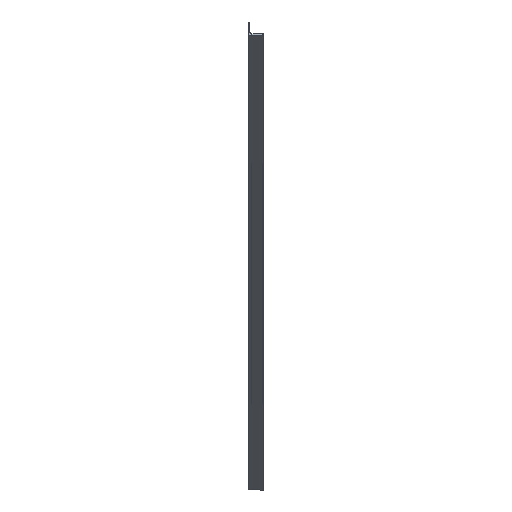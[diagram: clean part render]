
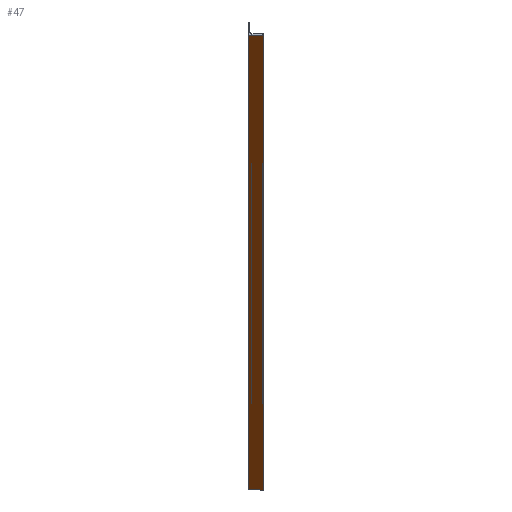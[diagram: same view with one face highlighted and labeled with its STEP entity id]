
A CAD part, top view. The second image highlights one B-rep face of the part: STEP entity #47.
In plain terms, the highlighted planar face has unit normal (0, -0.846, 0.533).
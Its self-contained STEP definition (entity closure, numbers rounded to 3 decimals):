
#1 = LINE ( 'NONE', #183, #19 ) ;
#6 = LINE ( 'NONE', #525, #703 ) ;
#19 = VECTOR ( 'NONE', #224, 1000. ) ;
#25 = DIRECTION ( 'NONE',  ( -1., 0., 0. ) ) ;
#47 = ADVANCED_FACE ( 'NONE', ( #403 ), #296, .F. ) ;
#50 = EDGE_CURVE ( 'NONE', #645, #722, #6, .T. ) ;
#68 = EDGE_CURVE ( 'NONE', #680, #250, #454, .T. ) ;
#93 = ORIENTED_EDGE ( 'NONE', *, *, #230, .T. ) ;
#132 = CARTESIAN_POINT ( 'NONE',  ( 5., 3572.842, 4931.08 ) ) ;
#183 = CARTESIAN_POINT ( 'NONE',  ( 5., 2101.535, 2597.884 ) ) ;
#213 = EDGE_LOOP ( 'NONE', ( #93, #396, #465, #628 ) ) ;
#224 = DIRECTION ( 'NONE',  ( -1., 0., 0. ) ) ;
#230 = EDGE_CURVE ( 'NONE', #250, #722, #479, .T. ) ;
#233 = DIRECTION ( 'NONE',  ( 0., 0.846, -0.533 ) ) ;
#250 = VERTEX_POINT ( 'NONE', #318 ) ;
#296 = PLANE ( 'NONE',  #691 ) ;
#318 = CARTESIAN_POINT ( 'NONE',  ( 55., 3572.842, 4931.08 ) ) ;
#319 = VECTOR ( 'NONE', #461, 1000. ) ;
#347 = DIRECTION ( 'NONE',  ( 0., 0.533, 0.846 ) ) ;
#396 = ORIENTED_EDGE ( 'NONE', *, *, #50, .F. ) ;
#399 = VECTOR ( 'NONE', #25, 1000. ) ;
#403 = FACE_OUTER_BOUND ( 'NONE', #213, .T. ) ;
#454 = LINE ( 'NONE', #633, #319 ) ;
#461 = DIRECTION ( 'NONE',  ( 0., 0.533, 0.846 ) ) ;
#465 = ORIENTED_EDGE ( 'NONE', *, *, #654, .F. ) ;
#479 = LINE ( 'NONE', #710, #399 ) ;
#525 = CARTESIAN_POINT ( 'NONE',  ( 5., 2101.535, 2597.884 ) ) ;
#576 = DIRECTION ( 'NONE',  ( 0., 0.533, 0.846 ) ) ;
#628 = ORIENTED_EDGE ( 'NONE', *, *, #68, .T. ) ;
#630 = CARTESIAN_POINT ( 'NONE',  ( 5., 2101.535, 2597.884 ) ) ;
#633 = CARTESIAN_POINT ( 'NONE',  ( 55., 2101.535, 2597.884 ) ) ;
#645 = VERTEX_POINT ( 'NONE', #726 ) ;
#654 = EDGE_CURVE ( 'NONE', #680, #645, #1, .T. ) ;
#680 = VERTEX_POINT ( 'NONE', #740 ) ;
#691 = AXIS2_PLACEMENT_3D ( 'NONE', #630, #233, #347 ) ;
#703 = VECTOR ( 'NONE', #576, 1000. ) ;
#710 = CARTESIAN_POINT ( 'NONE',  ( 5., 3572.842, 4931.08 ) ) ;
#722 = VERTEX_POINT ( 'NONE', #132 ) ;
#726 = CARTESIAN_POINT ( 'NONE',  ( 5., 2101.535, 2597.884 ) ) ;
#740 = CARTESIAN_POINT ( 'NONE',  ( 55., 2101.535, 2597.884 ) ) ;
